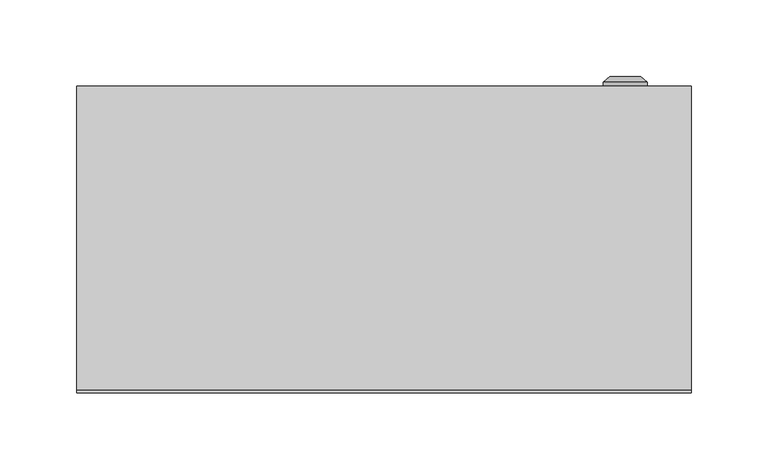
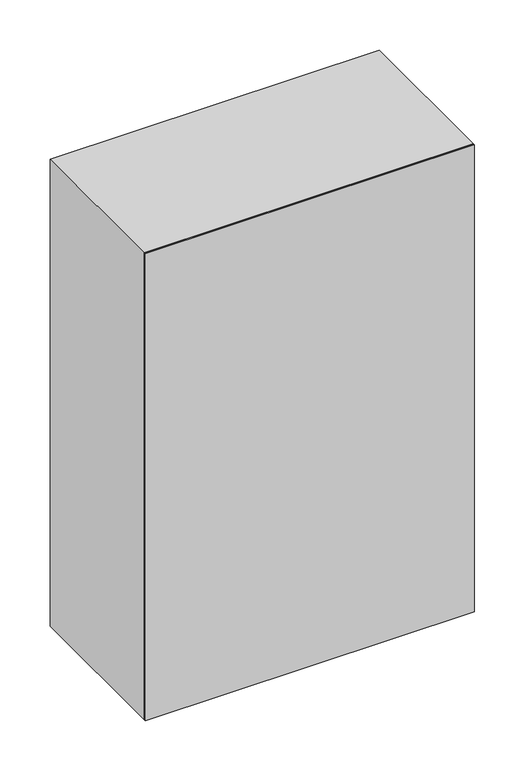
"""IFC4 building model written with IfcOpenShell, lengths in millimetres: proxy geometry, ЩМП : ЩМП-6.4.2_600х400х200."""

from ifc_helpers import new_model, si_unit, frame, origin, origin_with_axes, place, context, project, spatial, polyline, circle_curve, outline, extrude, source, transform, mapped, element, save
from ifc_brep_helpers import plane_surface, cylinder_surface, revolved_surface, advanced_brep


def electrical_equipment_b0966e39(model_context):
    return source(origin(), model_context, "Body", "SolidModel", [
        advanced_brep(
        [(142.669873, 200.0, 296.0), (171.330127, 200.0, 296.0), (157.0, 200.0, 296.0), (142.669873, 202.366592, 296.0), (171.330127, 202.366592, 296.0), (147.0, 206.0, 296.0), (167.0, 206.0, 296.0), (155.1080471, 206.0, 296.0), (158.8919529, 206.0, 296.0), (155.1080471, 204.9822294, 296.0), (158.8919529, 204.9822294, 296.0), (157.0, 204.9822294, 296.0)],
        [
            (0, 1, circle_curve(frame((157.0, 200.0, 296.0), z_axis=(0.0, -1.0, 0.0), x_axis=(1.0, 0.0, 0.0)), 14.330127)),
            (1, 2),
            (2, 0),
            (1, 0, circle_curve(frame((157.0, 200.0, 296.0), z_axis=(0.0, -1.0, 0.0), x_axis=(1.0, 0.0, 0.0)), 14.330127)),
            (3, 4, circle_curve(frame((157.0, 202.366592, 296.0), z_axis=(0.0, -1.0, 0.0), x_axis=(1.0, 0.0, 0.0)), 14.330127)),
            (4, 1),
            (0, 3),
            (4, 3, circle_curve(frame((157.0, 202.366592, 296.0), z_axis=(0.0, -1.0, 0.0), x_axis=(1.0, 0.0, 0.0)), 14.330127)),
            (5, 6, circle_curve(frame((157.0, 206.0, 296.0), z_axis=(0.0, -1.0, 0.0), x_axis=(1.0, 0.0, 0.0)), 10.0)),
            (6, 4),
            (3, 5),
            (6, 5, circle_curve(frame((157.0, 206.0, 296.0), z_axis=(0.0, -1.0, 0.0), x_axis=(1.0, 0.0, 0.0)), 10.0)),
            (7, 8, circle_curve(frame((157.0, 206.0, 296.0), z_axis=(0.0, -1.0, 0.0), x_axis=(1.0, 0.0, 0.0)), 1.8919529)),
            (8, 6),
            (5, 7),
            (8, 7, circle_curve(frame((157.0, 206.0, 296.0), z_axis=(0.0, -1.0, 0.0), x_axis=(1.0, 0.0, 0.0)), 1.8919529)),
            (9, 10, circle_curve(frame((157.0, 204.9822294, 296.0), z_axis=(0.0, -1.0, 0.0), x_axis=(1.0, 0.0, 0.0)), 1.8919529)),
            (10, 8),
            (7, 9),
            (10, 9, circle_curve(frame((157.0, 204.9822294, 296.0), z_axis=(0.0, -1.0, 0.0), x_axis=(1.0, 0.0, 0.0)), 1.8919529)),
            (11, 10),
            (9, 11),
        ],
        [
            plane_surface(frame((157.0, 200.0, 296.0), z_axis=(0.0, -1.0, 0.0), x_axis=(1.0, 0.0, 0.0))),
            cylinder_surface(frame((157.0, 213.1348851, 296.0), z_axis=(0.0, 1.0, 0.0), x_axis=(1.0, 0.0, 0.0)), 14.330127),
            revolved_surface(polyline([(171.330127, 202.366592, 296.0), (167.0, 206.0, 296.0)]), (157.0, 213.1348851, 296.0), (0.0, 1.0, 0.0)),
            plane_surface(frame((157.0, 206.0, 296.0), z_axis=(0.0, 1.0, 0.0), x_axis=(1.0, 0.0, 0.0))),
            revolved_surface(polyline([(158.8919529, 206.0, 296.0), (158.8919529, 204.9822294, 296.0)]), (157.0, 213.1348851, 296.0), (0.0, 1.0, 0.0)),
            plane_surface(frame((157.0, 204.9822294, 296.0), z_axis=(0.0, 1.0, 0.0), x_axis=(1.0, 0.0, 0.0))),
        ],
        [
            (0, [[1, 2, 3]]),
            (0, [[4, -3, -2]]),
            (1, [[5, 6, -1, 7]]),
            (1, [[8, -7, -4, -6]]),
            (2, [[9, 10, -5, 11]]),
            (2, [[12, -11, -8, -10]]),
            (3, [[13, 14, -9, 15]]),
            (3, [[16, -15, -12, -14]]),
            (4, [[17, 18, -13, 19]]),
            (4, [[20, -19, -16, -18]]),
            (5, [[21, -17, 22]]),
            (5, [[-22, -20, -21]]),
        ],
    ),
        extrude(outline(polyline([(182.5, 175.0), (-182.5, 175.0), (-182.5, 200.0), (182.5, 200.0), (182.5, 175.0)])), frame((0.0, 0.0, 16.5), z_axis=(0.0, 0.0, 1.0), x_axis=(1.0, 0.0, 0.0)), (0.0, 0.0, 1.0), 567.0),
        extrude(outline(polyline([(600.0, -200.0033905), (0.0, -200.0033905), (0.0, 199.9966095), (600.0, 199.9966095), (600.0, -200.0033905)]), holes=[polyline([(565.0, -167.0033905), (565.0, 166.9966095), (27.0, 166.9966095), (27.0, -167.0033905), (565.0, -167.0033905)])]), frame((0.0, 2.0, 0.0), z_axis=(0.0, 1.0, 0.0), x_axis=(0.0, 0.0, 1.0)), (0.0, 0.0, 1.0), 198.0),
        extrude(outline(polyline([(200.0, 0.0), (-200.0, 0.0), (-200.0, 2.0), (200.0, 2.0), (200.0, 0.0)])), origin_with_axes(), (0.0, 0.0, 1.0), 600.0),
    ])


if __name__ == "__main__":
    model = new_model("IFC4")
    model_context = context("Model", 3, world=origin())
    ifc_project = project(units=[si_unit("LENGTHUNIT", "METRE", prefix="MILLI")], contexts=[model_context])
    site = spatial("IfcSite", under=ifc_project)
    building = spatial("IfcBuilding", under=site)
    placement = place(None, origin())
    electrical_equipment_shape = electrical_equipment_b0966e39(model_context)
    element("IfcBuildingElementProxy", 1, Name="ЩМП : ЩМП-6.4.2_600х400х200", ObjectType="ЩМП : ЩМП-6.4.2_600х400х200", at=placement, inside=building, context=model_context, shape_type="MappedRepresentation", body=[
        mapped(electrical_equipment_shape, transform((0.0, 0.0, 0.0), x_axis=(1.0, 0.0, 0.0), y_axis=(0.0, 1.0, 0.0), z_axis=(0.0, 0.0, 1.0))),
    ])
    save(model, "model.ifc")
